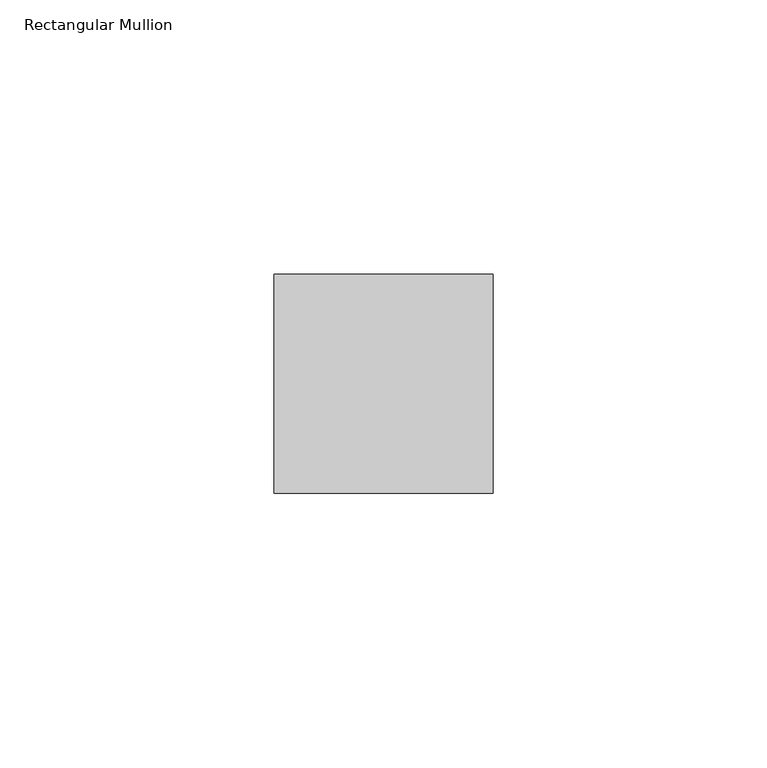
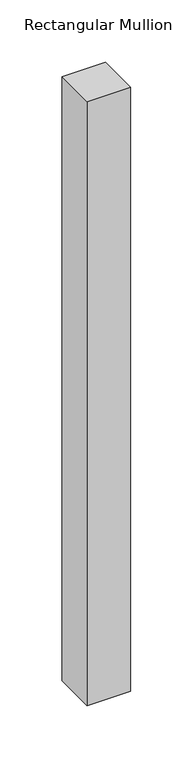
"""IFC4 building model written with IfcOpenShell, lengths in millimetres: member geometry, Rectangular Mullion : Danpal_NM_Middle-V-Mullion."""

from ifc_helpers import new_model, si_unit, frame, origin, place, context, project, spatial, polyline, outline, extrude, source, transform, mapped, element, save


def rectangular_mullion_088d7f16(model_context):
    return source(origin(), model_context, "Body", "SweptSolid", [
        extrude(outline(polyline([(0.0, 13.2378279), (-40.0, 13.2378279), (-40.0, 53.2378279), (0.0, 53.2378279), (0.0, 13.2378279)])), frame((0.0, 0.0, -590.0), z_axis=(0.0, 0.0, 1.0), x_axis=(1.0, 0.0, 0.0)), (0.0, 0.0, 1.0), 590.0),
    ])


if __name__ == "__main__":
    model = new_model("IFC4")
    model_context = context("Model", 3, world=origin())
    ifc_project = project(units=[si_unit("LENGTHUNIT", "METRE", prefix="MILLI")], contexts=[model_context])
    site = spatial("IfcSite", under=ifc_project)
    building = spatial("IfcBuilding", under=site)
    placement = place(None, origin())
    rectangular_mullion_shape = rectangular_mullion_088d7f16(model_context)
    element("IfcMember", 1, ObjectType="Rectangular Mullion : Danpal_NM_Middle-V-Mullion", at=placement, inside=building, context=model_context, shape_type="MappedRepresentation", body=[
        mapped(rectangular_mullion_shape, transform((0.0, 0.0, 0.0), x_axis=(1.0, 0.0, 0.0), y_axis=(0.0, 1.0, 0.0), z_axis=(0.0, 0.0, 1.0))),
    ])
    save(model, "model.ifc")
